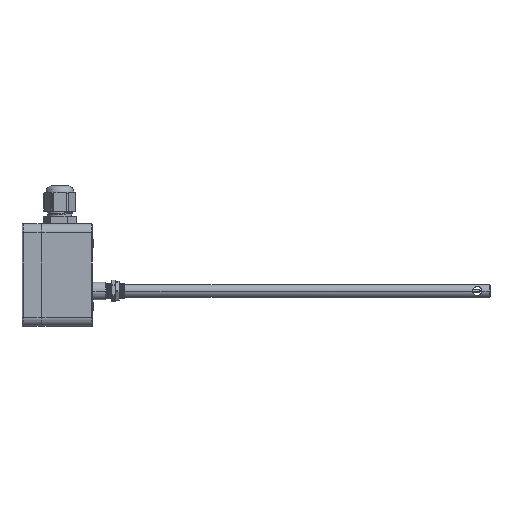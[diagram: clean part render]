
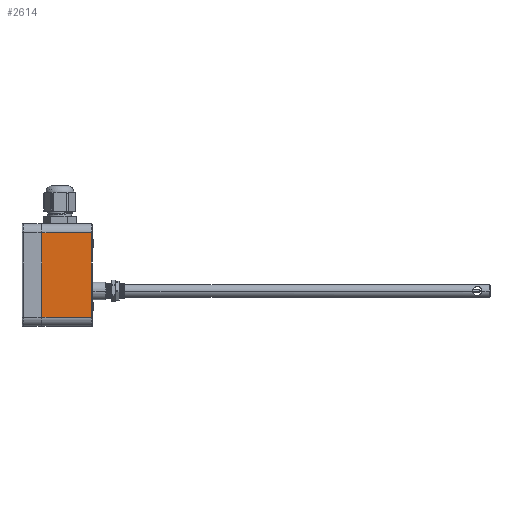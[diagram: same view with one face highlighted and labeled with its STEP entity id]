
A CAD part, left-side view. The second image highlights one B-rep face of the part: STEP entity #2614.
In plain terms, the highlighted planar face has unit normal (-1, 0, 0).
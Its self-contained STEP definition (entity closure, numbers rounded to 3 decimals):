
#456 = ORIENTED_EDGE ( 'NONE', *, *, #6275, .F. ) ;
#1309 = VECTOR ( 'NONE', #7457, 1000. ) ;
#2614 = ADVANCED_FACE ( 'NONE', ( #11350 ), #6910, .T. ) ;
#3446 = VERTEX_POINT ( 'NONE', #14219 ) ;
#4687 = DIRECTION ( 'NONE',  ( -1., 0., 0. ) ) ;
#5738 = EDGE_LOOP ( 'NONE', ( #15854, #7129, #22868, #456 ) ) ;
#6275 = EDGE_CURVE ( 'NONE', #23369, #19248, #12791, .T. ) ;
#6910 = PLANE ( 'NONE',  #14957 ) ;
#7061 = DIRECTION ( 'NONE',  ( 0., 1., 0. ) ) ;
#7129 = ORIENTED_EDGE ( 'NONE', *, *, #21878, .T. ) ;
#7457 = DIRECTION ( 'NONE',  ( 0., -1., 0. ) ) ;
#9500 = LINE ( 'NONE', #9782, #19961 ) ;
#9782 = CARTESIAN_POINT ( 'NONE',  ( -42.5, -39., -40. ) ) ;
#11350 = FACE_OUTER_BOUND ( 'NONE', #5738, .T. ) ;
#11595 = EDGE_CURVE ( 'NONE', #23369, #3446, #20099, .T. ) ;
#11806 = CARTESIAN_POINT ( 'NONE',  ( -42.5, -0.6, -33. ) ) ;
#11896 = CARTESIAN_POINT ( 'NONE',  ( -42.5, -40., -33. ) ) ;
#12791 = LINE ( 'NONE', #20713, #16734 ) ;
#14219 = CARTESIAN_POINT ( 'NONE',  ( -42.5, -39., -33. ) ) ;
#14957 = AXIS2_PLACEMENT_3D ( 'NONE', #15252, #4687, #7061 ) ;
#15252 = CARTESIAN_POINT ( 'NONE',  ( -42.5, -40., -40. ) ) ;
#15854 = ORIENTED_EDGE ( 'NONE', *, *, #11595, .T. ) ;
#16513 = CARTESIAN_POINT ( 'NONE',  ( -42.5, -40., 33. ) ) ;
#16734 = VECTOR ( 'NONE', #21124, 1000. ) ;
#17384 = VERTEX_POINT ( 'NONE', #23022 ) ;
#17593 = VECTOR ( 'NONE', #26947, 1000. ) ;
#19248 = VERTEX_POINT ( 'NONE', #21963 ) ;
#19961 = VECTOR ( 'NONE', #24511, 1000. ) ;
#20099 = LINE ( 'NONE', #11896, #1309 ) ;
#20713 = CARTESIAN_POINT ( 'NONE',  ( -42.5, -0.6, -33. ) ) ;
#21124 = DIRECTION ( 'NONE',  ( 0., 0., 1. ) ) ;
#21878 = EDGE_CURVE ( 'NONE', #3446, #17384, #9500, .T. ) ;
#21963 = CARTESIAN_POINT ( 'NONE',  ( -42.5, -0.6, 33. ) ) ;
#22868 = ORIENTED_EDGE ( 'NONE', *, *, #26786, .T. ) ;
#23022 = CARTESIAN_POINT ( 'NONE',  ( -42.5, -39., 33. ) ) ;
#23369 = VERTEX_POINT ( 'NONE', #11806 ) ;
#24511 = DIRECTION ( 'NONE',  ( 0., 0., 1. ) ) ;
#24993 = LINE ( 'NONE', #16513, #17593 ) ;
#26786 = EDGE_CURVE ( 'NONE', #17384, #19248, #24993, .T. ) ;
#26947 = DIRECTION ( 'NONE',  ( 0., 1., 0. ) ) ;
